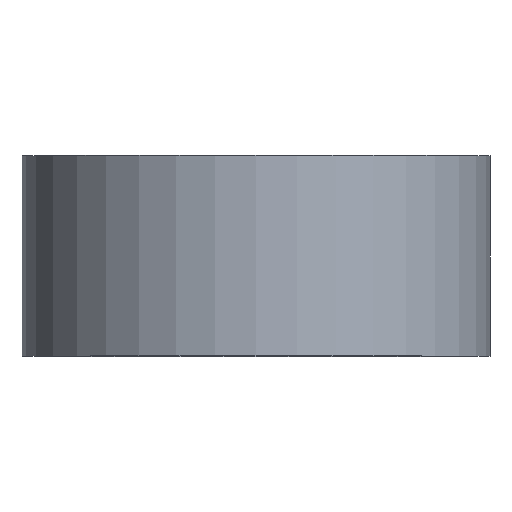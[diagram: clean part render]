
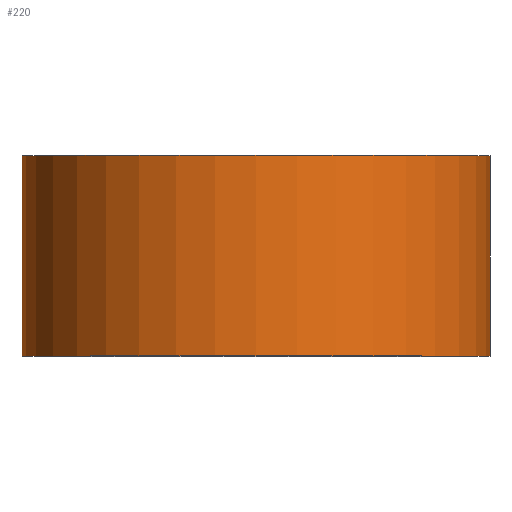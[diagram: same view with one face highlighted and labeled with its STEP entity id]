
A CAD part, top view. The second image highlights one B-rep face of the part: STEP entity #220.
In plain terms, the highlighted cylindrical face has radius 35 mm (diameter 70 mm), a partial arc.
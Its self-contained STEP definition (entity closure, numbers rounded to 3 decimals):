
#6 = CIRCLE ( 'NONE', #51, 35. ) ;
#11 = CARTESIAN_POINT ( 'NONE',  ( 0., 30., 0. ) ) ;
#13 = DIRECTION ( 'NONE',  ( 0., 1., 0. ) ) ;
#28 = EDGE_CURVE ( 'NONE', #300, #301, #244, .T. ) ;
#51 = AXIS2_PLACEMENT_3D ( 'NONE', #11, #224, #184 ) ;
#56 = DIRECTION ( 'NONE',  ( 0., 1., 0. ) ) ;
#60 = VERTEX_POINT ( 'NONE', #203 ) ;
#66 = ORIENTED_EDGE ( 'NONE', *, *, #156, .F. ) ;
#80 = ORIENTED_EDGE ( 'NONE', *, *, #100, .T. ) ;
#84 = VECTOR ( 'NONE', #56, 1000. ) ;
#87 = CARTESIAN_POINT ( 'NONE',  ( 35., 30., 0. ) ) ;
#90 = CARTESIAN_POINT ( 'NONE',  ( -35., 0., 0. ) ) ;
#98 = VERTEX_POINT ( 'NONE', #87 ) ;
#100 = EDGE_CURVE ( 'NONE', #300, #60, #253, .T. ) ;
#103 = FACE_OUTER_BOUND ( 'NONE', #250, .T. ) ;
#106 = ORIENTED_EDGE ( 'NONE', *, *, #28, .F. ) ;
#117 = CYLINDRICAL_SURFACE ( 'NONE', #268, 35. ) ;
#124 = DIRECTION ( 'NONE',  ( -1., 0., 0. ) ) ;
#138 = CARTESIAN_POINT ( 'NONE',  ( -35., 30., 0. ) ) ;
#143 = CARTESIAN_POINT ( 'NONE',  ( 35., 0., 0. ) ) ;
#144 = CARTESIAN_POINT ( 'NONE',  ( 0., 0., 0. ) ) ;
#156 = EDGE_CURVE ( 'NONE', #301, #98, #6, .T. ) ;
#158 = CARTESIAN_POINT ( 'NONE',  ( -35., 0., 0. ) ) ;
#182 = CARTESIAN_POINT ( 'NONE',  ( 0., 0., 0. ) ) ;
#184 = DIRECTION ( 'NONE',  ( -1., 0., 0. ) ) ;
#188 = VECTOR ( 'NONE', #297, 1000. ) ;
#195 = ORIENTED_EDGE ( 'NONE', *, *, #201, .T. ) ;
#201 = EDGE_CURVE ( 'NONE', #60, #98, #260, .T. ) ;
#203 = CARTESIAN_POINT ( 'NONE',  ( 35., 0., 0. ) ) ;
#220 = ADVANCED_FACE ( 'NONE', ( #103 ), #117, .T. ) ;
#224 = DIRECTION ( 'NONE',  ( 0., 1., 0. ) ) ;
#228 = DIRECTION ( 'NONE',  ( -1., 0., 0. ) ) ;
#237 = DIRECTION ( 'NONE',  ( 0., 1., 0. ) ) ;
#242 = AXIS2_PLACEMENT_3D ( 'NONE', #182, #13, #228 ) ;
#244 = LINE ( 'NONE', #158, #188 ) ;
#250 = EDGE_LOOP ( 'NONE', ( #80, #195, #66, #106 ) ) ;
#253 = CIRCLE ( 'NONE', #242, 35. ) ;
#260 = LINE ( 'NONE', #143, #84 ) ;
#268 = AXIS2_PLACEMENT_3D ( 'NONE', #144, #237, #124 ) ;
#297 = DIRECTION ( 'NONE',  ( 0., 1., 0. ) ) ;
#300 = VERTEX_POINT ( 'NONE', #90 ) ;
#301 = VERTEX_POINT ( 'NONE', #138 ) ;
